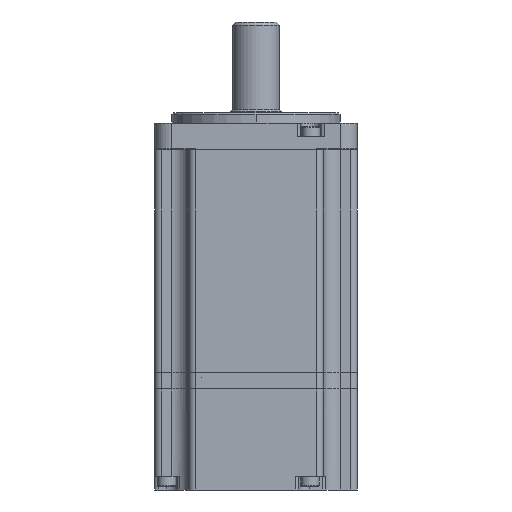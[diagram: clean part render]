
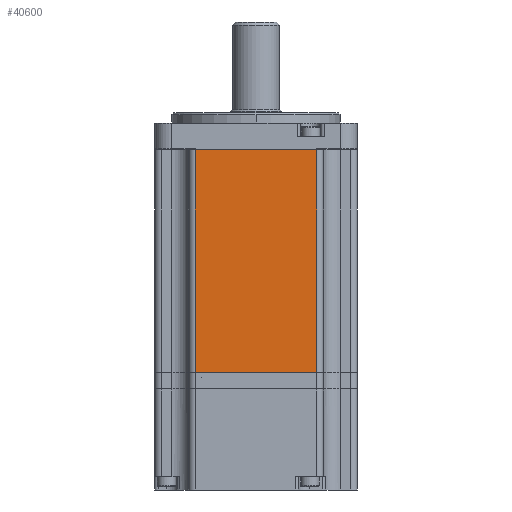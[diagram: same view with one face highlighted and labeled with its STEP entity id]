
A CAD part, front view. The second image highlights one B-rep face of the part: STEP entity #40600.
In plain terms, the highlighted planar face has unit normal (0, -1, 0).
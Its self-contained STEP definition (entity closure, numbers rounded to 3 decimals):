
#13666 = CARTESIAN_POINT ( 'NONE',  ( -18., -30.1, 66. ) ) ;
#13667 = CARTESIAN_POINT ( 'NONE',  ( 18., -30.1, 66. ) ) ;
#13673 = CARTESIAN_POINT ( 'NONE',  ( -18., -30.1, 0. ) ) ;
#13676 = CARTESIAN_POINT ( 'NONE',  ( 18., -30.1, 0. ) ) ;
#15985 = LINE ( 'NONE', #18065, #15987 ) ;
#15987 = VECTOR ( 'NONE', #18066, 1000. ) ;
#16005 = LINE ( 'NONE', #18109, #16007 ) ;
#16007 = VECTOR ( 'NONE', #18104, 1000. ) ;
#16037 = LINE ( 'NONE', #18164, #16040 ) ;
#16039 = LINE ( 'NONE', #18166, #16042 ) ;
#16040 = VECTOR ( 'NONE', #18165, 1000. ) ;
#16042 = VECTOR ( 'NONE', #18167, 1000. ) ;
#18065 = CARTESIAN_POINT ( 'NONE',  ( -20., -30.1, 66. ) ) ;
#18066 = DIRECTION ( 'NONE',  ( 1., 0., 0. ) ) ;
#18104 = DIRECTION ( 'NONE',  ( 1., 0., 0. ) ) ;
#18109 = CARTESIAN_POINT ( 'NONE',  ( -20., -30.1, 0. ) ) ;
#18164 = CARTESIAN_POINT ( 'NONE',  ( 18., -30.1, 66. ) ) ;
#18165 = DIRECTION ( 'NONE',  ( 0., 0., 1. ) ) ;
#18166 = CARTESIAN_POINT ( 'NONE',  ( -18., -30.1, 66. ) ) ;
#18167 = DIRECTION ( 'NONE',  ( 0., 0., -1. ) ) ;
#19826 = FACE_OUTER_BOUND ( 'NONE', #45704, .T. ) ;
#20549 = AXIS2_PLACEMENT_3D ( 'NONE', #22356, #22362, #22363 ) ;
#22356 = CARTESIAN_POINT ( 'NONE',  ( -20., -30.1, 66. ) ) ;
#22360 = PLANE ( 'NONE',  #20549 ) ;
#22362 = DIRECTION ( 'NONE',  ( 0., 1., 0. ) ) ;
#22363 = DIRECTION ( 'NONE',  ( 0., 0., 1. ) ) ;
#36740 = VERTEX_POINT ( 'NONE', #13666 ) ;
#36741 = VERTEX_POINT ( 'NONE', #13667 ) ;
#36747 = VERTEX_POINT ( 'NONE', #13673 ) ;
#36750 = VERTEX_POINT ( 'NONE', #13676 ) ;
#40109 = EDGE_CURVE ( 'NONE', #36740, #36741, #15985, .T. ) ;
#40124 = EDGE_CURVE ( 'NONE', #36747, #36750, #16005, .T. ) ;
#40145 = EDGE_CURVE ( 'NONE', #36750, #36741, #16037, .T. ) ;
#40146 = EDGE_CURVE ( 'NONE', #36740, #36747, #16039, .T. ) ;
#40600 = ADVANCED_FACE ( 'NONE', ( #19826 ), #22360, .F. ) ;
#43800 = ORIENTED_EDGE ( 'NONE', *, *, #40124, .T. ) ;
#43801 = ORIENTED_EDGE ( 'NONE', *, *, #40145, .T. ) ;
#43802 = ORIENTED_EDGE ( 'NONE', *, *, #40109, .F. ) ;
#43803 = ORIENTED_EDGE ( 'NONE', *, *, #40146, .T. ) ;
#45704 = EDGE_LOOP ( 'NONE', ( #43800, #43801, #43802, #43803 ) ) ;
